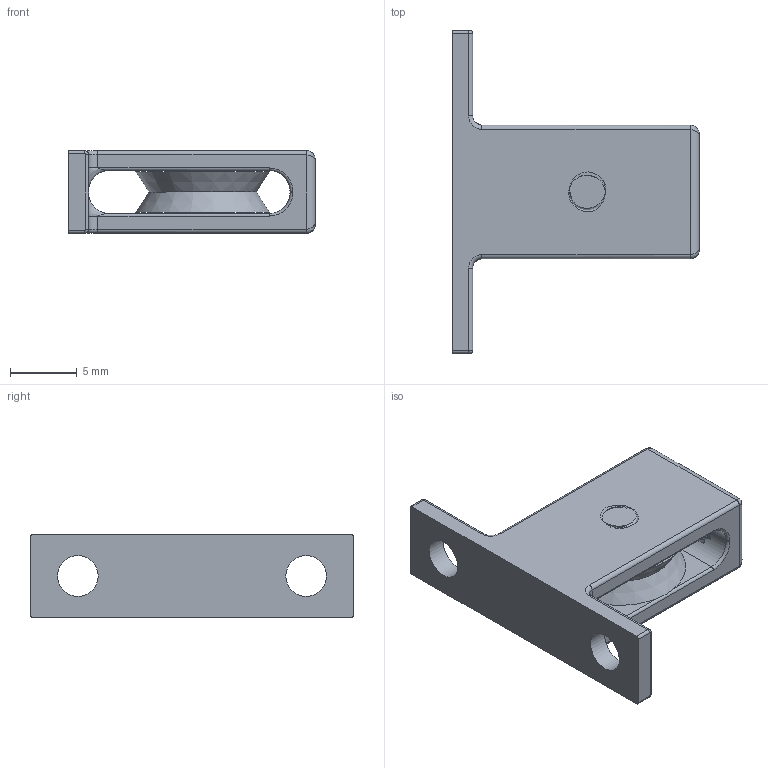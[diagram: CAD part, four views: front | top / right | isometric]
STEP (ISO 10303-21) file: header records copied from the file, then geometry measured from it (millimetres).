
FILE_DESCRIPTION( ('This file contains a STEP AP42 implementation' ,'as created by ZW3D STEP Interface translator.') ,'2;1' );
FILE_NAME( 'BL-PM-01B.stp' ,'24 117.13 231', (''), ('ZWCAD Software Co.'), 'Version 1.0', 'ZW3D to STEP translator', '' );
FILE_SCHEMA(('AUTOMOTIVE_DESIGN { 1 0 10303 214 1 1 1 1 }'));
Length unit declared in the file: millimetre
Products named in the file (5): 0; PulleyModule; VPulley; NoHeadScrew001; PulleyBracketV4
Assembly tree (3 placements, depth 2):
  0
  PulleyModule
    VPulley
    NoHeadScrew001
    PulleyBracketV4
Bounding box: 18.5 x 24.19 x 6.2 mm (x, y, z)
Volume: 205.1 mm3; surface area: 1598.8 mm2
Topology: 2 solids, 3 shells, 164 faces, 462 edges, 284 vertices
Faces by surface type: cylinder 93, bspline 33, plane 26, torus 8, cone 4
Full cylindrical faces by diameter (mm): 2 x12, 2.5 x8, 3.05 x2
Entity records: 11481 total; most frequent: CARTESIAN_POINT 7684, ORIENTED_EDGE 864, DIRECTION 582, EDGE_CURVE 434, VERTEX_POINT 272, AXIS2_PLACEMENT_3D 213, EDGE_LOOP 177, FACE_OUTER_BOUND 164
